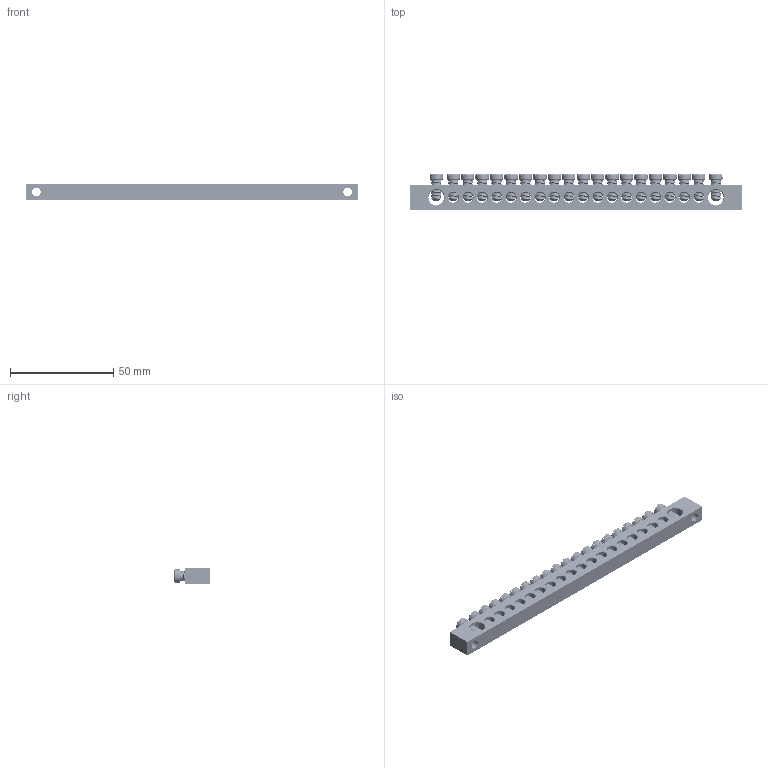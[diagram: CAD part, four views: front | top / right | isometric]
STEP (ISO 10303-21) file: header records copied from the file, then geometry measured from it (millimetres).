
FILE_DESCRIPTION (( 'STEP AP214' ), '1' );
FILE_NAME ('278015 OptiKit BB-PEN-S-20-8õ12-2.STEP', '2020-02-07T06:48:13', ( '' ), ( '' ), 'SwSTEP 2.0', 'SolidWorks 2018', '' );
FILE_SCHEMA (( 'AUTOMOTIVE_DESIGN' ));
Length unit declared in the file: millimetre
Products named in the file (3): Âèíò ì5; Øèíà 8õ12 20 2; 278015 OptiKit BB-PEN-S-20-8õ12-2
Assembly tree (21 placements, depth 2):
  278015 OptiKit BB-PEN-S-20-8õ12-2
    Øèíà 8õ12 20 2
    Âèíò ì5  x20
Bounding box: 161 x 17.3 x 8 mm (x, y, z)
Volume: 15656.7 mm3; surface area: 15606.9 mm2
Topology: 21 solids, 21 shells, 1670 faces, 4624 edges, 2976 vertices
Faces by surface type: cylinder 644, plane 546, cone 280, torus 140, bspline 60
Entity records: 11347 total; most frequent: CARTESIAN_POINT 4627, DIRECTION 1277, ORIENTED_EDGE 1264, EDGE_CURVE 632, AXIS2_PLACEMENT_3D 511, VERTEX_POINT 392, EDGE_LOOP 330, VECTOR 255
